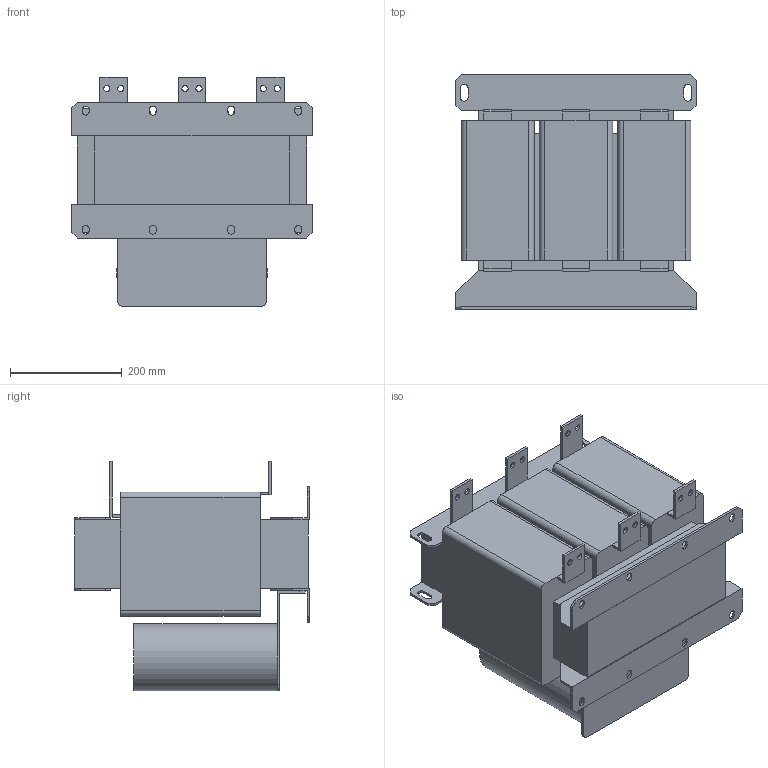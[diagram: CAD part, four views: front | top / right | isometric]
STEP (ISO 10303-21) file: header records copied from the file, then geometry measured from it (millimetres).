
FILE_DESCRIPTION(/* description */ (''),/* implementation_level */ '2;1');
FILE_NAME(/* name */ 'Sin-T4-480.stp',/* time_stamp */ '2025-03-10T16:11:03+04:00',/* author */ ('Лео'),/* organization */ (''),/* preprocessor_version */ 'ST-DEVELOPER v19.2',/* originating_system */ 'Autodesk Inventor 2024',/* authorisation */ '');
FILE_SCHEMA (('AUTOMOTIVE_DESIGN { 1 0 10303 214 3 1 1 }'));
Length unit declared in the file: millimetre
Products named in the file (1): Sin-T4-004
Bounding box: 430 x 420 x 410 mm (x, y, z)
Volume: 35798683 mm3; surface area: 1786508.5 mm2
Topology: 24 solids, 24 shells, 236 faces, 564 edges, 376 vertices
Faces by surface type: plane 182, cylinder 54
Full cylindrical faces by diameter (mm): 11 x12, 120 x2
Entity records: 6912 total; most frequent: CARTESIAN_POINT 1177, DIRECTION 1146, ORIENTED_EDGE 1128, EDGE_CURVE 564, LINE 456, VECTOR 456, VERTEX_POINT 376, AXIS2_PLACEMENT_3D 345
